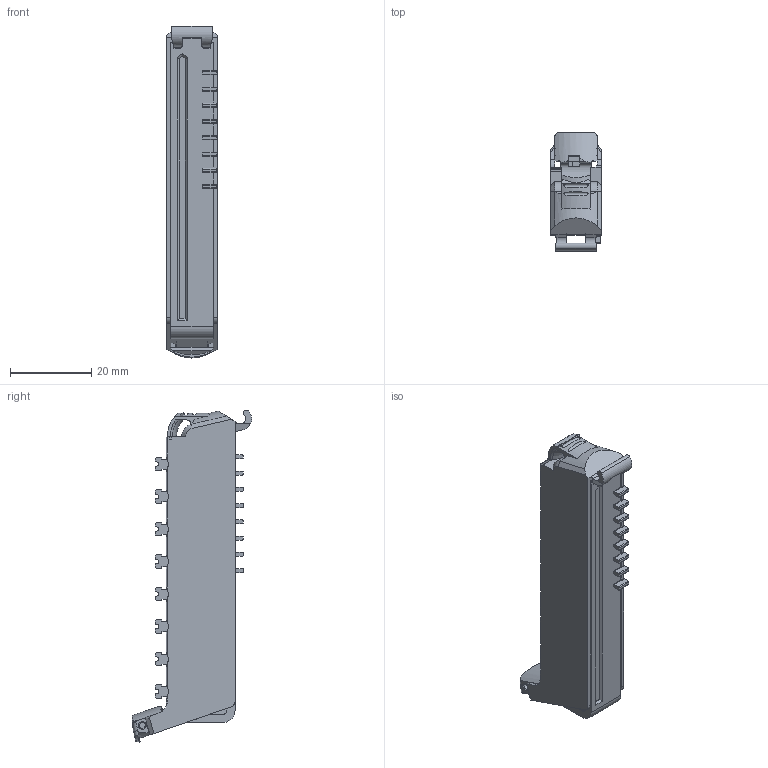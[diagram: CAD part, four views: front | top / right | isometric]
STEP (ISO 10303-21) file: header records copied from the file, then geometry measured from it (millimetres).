
FILE_DESCRIPTION((''),'2;1');
FILE_NAME('2036550','2024-05-02T07:40:39',('l.merz'),(''),'CREO PARAMETRIC BY PTC INC, 2019292','CREO PARAMETRIC BY PTC INC, 2019292','');
FILE_SCHEMA(('AUTOMOTIVE_DESIGN { 1 0 10303 214 1 1 1 1 }'));
Length unit declared in the file: millimetre
Products named in the file (1): 2036550
Bounding box: 12.5 x 29.39 x 81.78 mm (x, y, z)
Volume: 15501.2 mm3; surface area: 7566.8 mm2
Topology: 1 solids, 1 shells, 1043 faces, 2940 edges, 1924 vertices
Faces by surface type: plane 770, cylinder 174, bspline 39, extrusion 26, cone 25, torus 9
Entity records: 53777 total; most frequent: CARTESIAN_POINT 10113, ORIENTED_EDGE 5880, DIRECTION 5142, PRESENTATION_STYLE_ASSIGNMENT 4011, STYLED_ITEM 2968, CURVE_STYLE 2967, EDGE_CURVE 2940, VECTOR 2276
